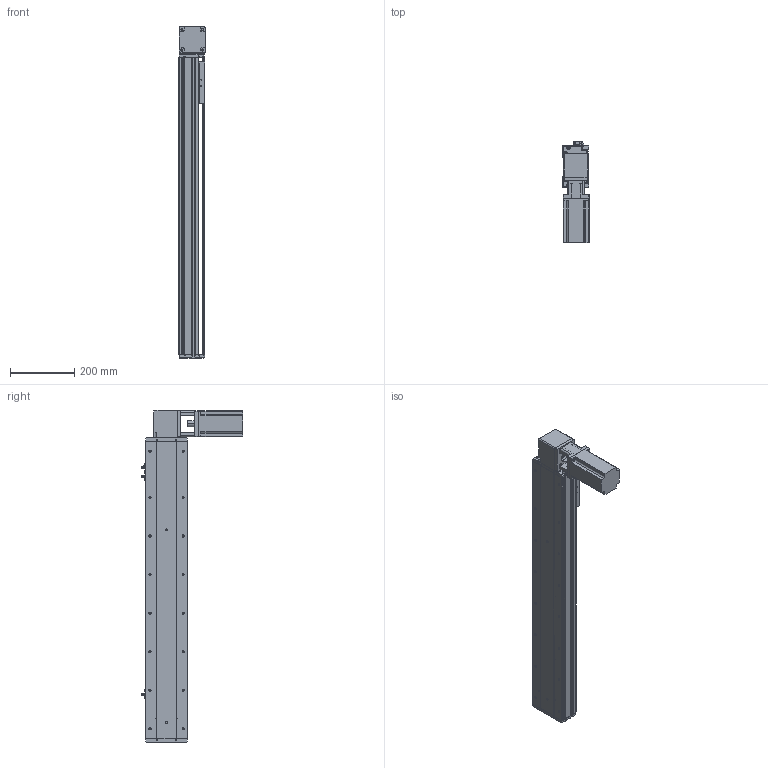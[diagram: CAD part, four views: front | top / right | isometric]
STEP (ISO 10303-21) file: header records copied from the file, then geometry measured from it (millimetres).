
FILE_DESCRIPTION (( 'STEP AP214' ), '1' );
FILE_NAME ('KSD130B-S700-MLT-CM .STEP', '2019-09-23T02:16:59', ( '微软用户' ), ( '微软中国' ), 'SwSTEP 2.0', 'SolidWorks 2014', '' );
FILE_SCHEMA (( 'AUTOMOTIVE_DESIGN' ));
Length unit declared in the file: millimetre
Products named in the file (12): 台达ECMA－C20807AS伺服电机; 130宽马达安装板1-带电机座750W（1）; 覜茼え100遵圉猾敕; U倰嫖萇EEㄜSX672; 130宽安装板同步带带电机座750W; 130宽盖板半封闭同步带-700行程; 130宽马达安装板同步带左-改; 130宽马达安装板同步带半封闭; 130宽同步带安装座半封闭; 130宽端盖同步带半封闭; 130宽底板半封闭同步带-700行程; KSD130B-S700-MLT-CM 
Assembly tree (13 placements, depth 2):
  KSD130B-S700-MLT-CM 
    130宽底板半封闭同步带-700行程
    130宽端盖同步带半封闭
    130宽同步带安装座半封闭
    130宽马达安装板同步带半封闭
    130宽马达安装板同步带左-改
    130宽盖板半封闭同步带-700行程
    130宽安装板同步带带电机座750W
    U倰嫖萇EEㄜSX672  x3
    覜茼え100遵圉猾敕
    130宽马达安装板1-带电机座750W（1）
    台达ECMA－C20807AS伺服电机
Bounding box: 81 x 316 x 1033 mm (x, y, z)
Volume: 4154579.8 mm3; surface area: 1064383.9 mm2
Topology: 14 solids, 14 shells, 1447 faces, 4092 edges, 2621 vertices
Faces by surface type: cylinder 689, plane 597, cone 161
Entity records: 46807 total; most frequent: CARTESIAN_POINT 8515, DIRECTION 7158, ORIENTED_EDGE 6860, EDGE_CURVE 3430, AXIS2_PLACEMENT_3D 2616, VERTEX_POINT 2245, VECTOR 1926, LINE 1926
